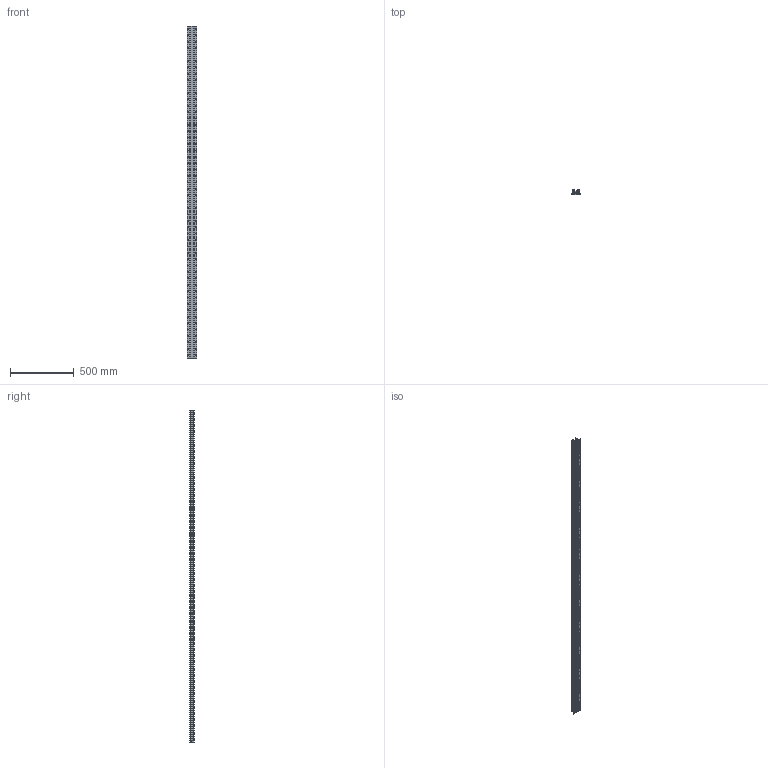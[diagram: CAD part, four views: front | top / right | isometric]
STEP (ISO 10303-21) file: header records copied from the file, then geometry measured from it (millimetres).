
FILE_DESCRIPTION (( 'STEP AP203' ), '1' );
FILE_NAME ('LFS-8-7_-_L=2596.step', '2006-12-18T13:28:39', ( ' ' ), ( ' ' ), 'SwSTEP 2.0', 'SolidWorks 2006089', '' );
FILE_SCHEMA (( 'CONFIG_CONTROL_DESIGN' ));
Length unit declared in the file: millimetre
Products named in the file (1): LFS-8-7_-_L=2596
Bounding box: 78 x 36 x 2596 mm (x, y, z)
Volume: 2246176.8 mm3; surface area: 1443120 mm2
Topology: 3 solids, 3 shells, 591 faces, 1859 edges, 1170 vertices
Faces by surface type: plane 327, cylinder 264
Entity records: 20918 total; most frequent: CARTESIAN_POINT 4869, ORIENTED_EDGE 3718, DIRECTION 3155, EDGE_CURVE 1859, VERTEX_POINT 1170, AXIS2_PLACEMENT_3D 1120, LINE 915, VECTOR 915
